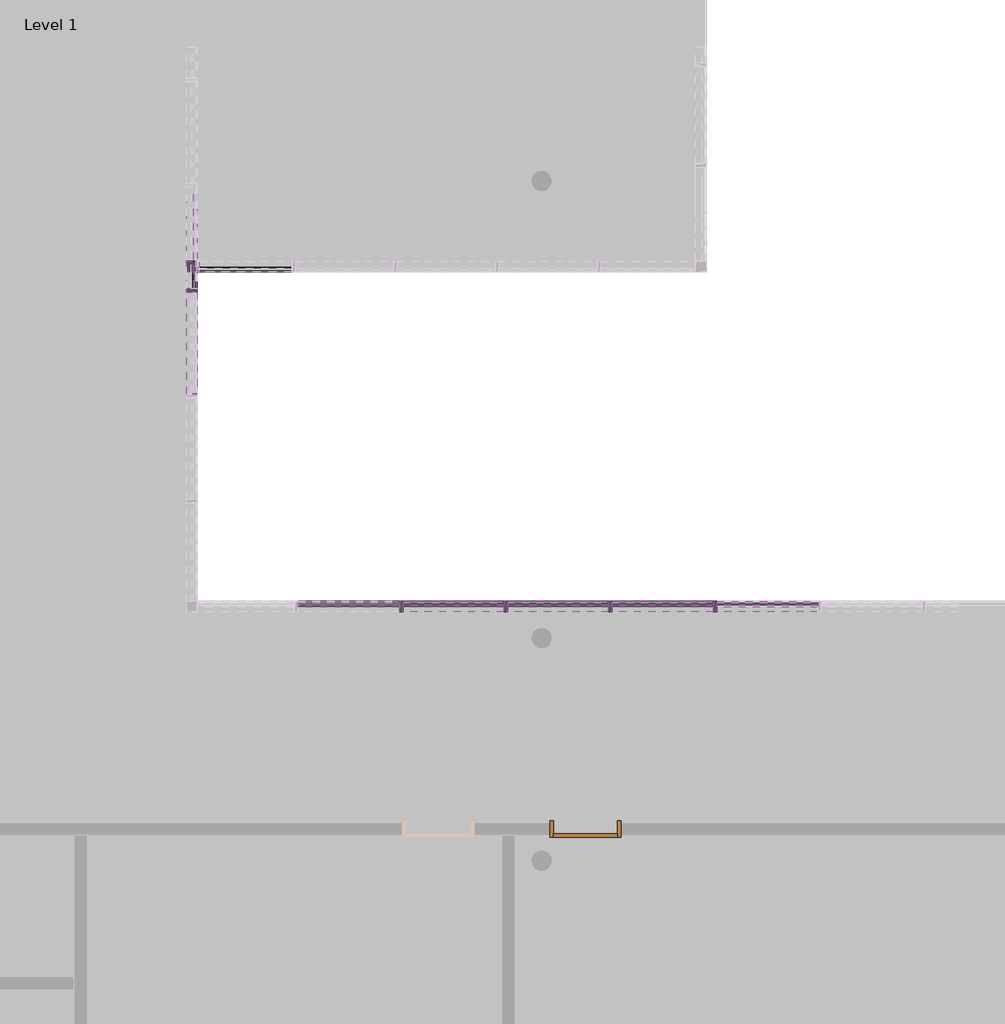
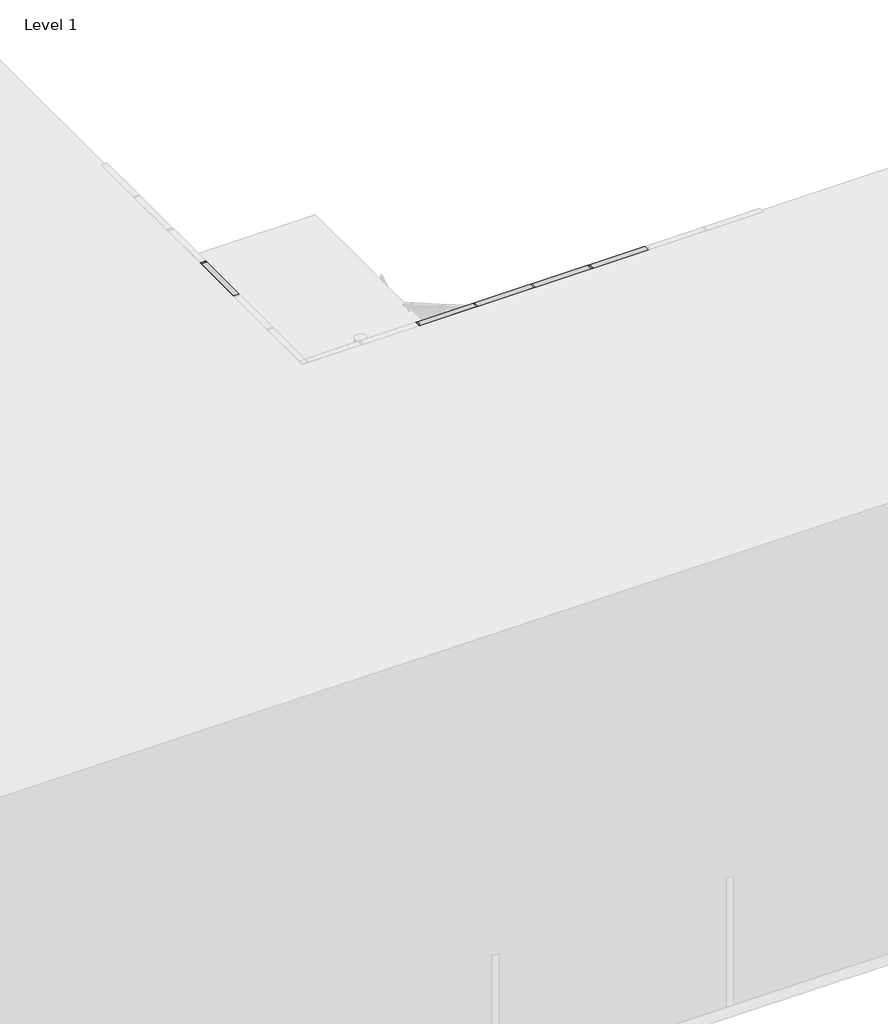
# One storey, part 2 of 18: 86 members, 38 plates, 1 door.
"""IFC4 building model written with IfcOpenShell, lengths in millimetres."""

from ifc_helpers import new_model, si_unit, origin, place, context, project, spatial, transform, mapped, element, save
from components import door_0915mm_x_2134mm_2aa27b83, quad_corner_mullion_quad_mullion_1_37ac55ff, quad_corner_mullion_quad_mullion_1_d5379b67, quad_corner_mullion_quad_mullion_1_470f416b, rectangular_mullion_50mm_x_150mm_5f185edf, rectangular_mullion_50mm_x_150mm_e13fe9f0, rectangular_mullion_50mm_x_150mm_70cae3e1, rectangular_mullion_50mm_x_150mm_5226f6e8, rectangular_mullion_50mm_x_150mm_3bb547da, rectangular_mullion_50mm_x_150mm_bbc1c4ea, rectangular_mullion_50mm_x_150mm_36202a7c, rectangular_mullion_50mm_x_150mm_84717ec5, rectangular_mullion_50mm_x_150mm_a6a3d5e8, rectangular_mullion_50mm_x_150mm_c3a19aad, rectangular_mullion_50mm_x_150mm_56029db9, rectangular_mullion_50mm_x_150mm_d48598d6, rectangular_mullion_50mm_x_150mm_1a36453b, system_panel_glazed_65478968, system_panel_glazed_4c130a31, system_panel_glazed_979b1f5c, system_panel_glazed_5501cdc8, system_panel_glazed_25246cb8, system_panel_solid_368a6b70, system_panel_solid_ece33ae8, system_panel_solid_89a25cb9

model = new_model("IFC4")

# Units and contexts
model_context = context("Model", 3, world=origin())
ifc_project = project(units=[si_unit("LENGTHUNIT", "METRE", prefix="MILLI")], contexts=[model_context])

# Site, building, storey
site = spatial("IfcSite", under=ifc_project)
building = spatial("IfcBuilding", under=site)
storey = spatial("IfcBuildingStorey", under=building, Name="Level 1", Elevation=0.0)

# Door
placement = place(None, origin())
door_0915mm_x_2134mm_shape = door_0915mm_x_2134mm_2aa27b83(model_context)
element("IfcDoor", 1, ObjectType="m-doors-hm-f1-a : 0915mm x 2134mm", at=placement, inside=storey, context=model_context, shape_type="MappedRepresentation", body=[
    mapped(door_0915mm_x_2134mm_shape, transform((13061.1968037, -15479.7006057, 0.0), x_axis=(-1.0, 0.0, 0.0), y_axis=(0.0, -1.0, 0.0), z_axis=(0.0, 0.0, 1.0))),
])

# Members
quad_corner_mullion_quad_mullion_1_shape = quad_corner_mullion_quad_mullion_1_37ac55ff(model_context)
element("IfcMember", 2, ObjectType="Quad Corner Mullion : Quad Mullion 1", at=placement, inside=storey, context=model_context, shape_type="MappedRepresentation", body=[
    mapped(quad_corner_mullion_quad_mullion_1_shape, transform((7447.5010724, -7283.8611817, 0.0), x_axis=(0.0, 1.0, 0.0), y_axis=(1.0, 0.0, 0.0), z_axis=(0.0, 0.0, -1.0))),
])
quad_corner_mullion_quad_mullion_1_2_shape = quad_corner_mullion_quad_mullion_1_d5379b67(model_context)
element("IfcMember", 3, ObjectType="Quad Corner Mullion : Quad Mullion 1", at=placement, inside=storey, context=model_context, shape_type="MappedRepresentation", body=[
    mapped(quad_corner_mullion_quad_mullion_1_2_shape, transform((7447.5010724, -7283.8611817, 2440.0), x_axis=(0.0, 1.0, 0.0), y_axis=(1.0, 0.0, 0.0), z_axis=(0.0, 0.0, -1.0))),
])
element("IfcMember", 4, ObjectType="Quad Corner Mullion : Quad Mullion 1", at=placement, inside=storey, context=model_context, shape_type="MappedRepresentation", body=[
    mapped(quad_corner_mullion_quad_mullion_1_shape, transform((7447.5010724, -7283.8611817, 3800.0), x_axis=(0.0, 1.0, 0.0), y_axis=(1.0, 0.0, 0.0), z_axis=(0.0, 0.0, -1.0))),
])
quad_corner_mullion_quad_mullion_1_3_shape = quad_corner_mullion_quad_mullion_1_470f416b(model_context)
element("IfcMember", 5, ObjectType="Quad Corner Mullion : Quad Mullion 1", at=placement, inside=storey, context=model_context, shape_type="MappedRepresentation", body=[
    mapped(quad_corner_mullion_quad_mullion_1_3_shape, transform((7447.5010724, -7283.8611817, 6240.0), x_axis=(0.0, 1.0, 0.0), y_axis=(1.0, 0.0, 0.0), z_axis=(0.0, 0.0, -1.0))),
])
rectangular_mullion_50mm_x_150mm_shape = rectangular_mullion_50mm_x_150mm_5f185edf(model_context)
element("IfcMember", 6, ObjectType="Rectangular Mullion : 50mm x 150mm", at=placement, inside=storey, context=model_context, shape_type="MappedRepresentation", body=[
    mapped(rectangular_mullion_50mm_x_150mm_shape, transform((14934.8671735, -12132.3615692, 12400.0), x_axis=(0.0, 0.0, 1.0), y_axis=(0.0, 1.0, 0.0), z_axis=(-1.0, 0.0, 0.0))),
])
element("IfcMember", 7, ObjectType="Rectangular Mullion : 50mm x 150mm", at=placement, inside=storey, context=model_context, shape_type="MappedRepresentation", body=[
    mapped(rectangular_mullion_50mm_x_150mm_shape, transform((13442.3939533, -12132.3615692, 12400.0), x_axis=(0.0, 0.0, 1.0), y_axis=(0.0, 1.0, 0.0), z_axis=(-1.0, 0.0, 0.0))),
])
element("IfcMember", 8, ObjectType="Rectangular Mullion : 50mm x 150mm", at=placement, inside=storey, context=model_context, shape_type="MappedRepresentation", body=[
    mapped(rectangular_mullion_50mm_x_150mm_shape, transform((11949.9207332, -12132.3615692, 12400.0), x_axis=(0.0, 0.0, 1.0), y_axis=(0.0, 1.0, 0.0), z_axis=(-1.0, 0.0, 0.0))),
])
element("IfcMember", 9, ObjectType="Rectangular Mullion : 50mm x 150mm", at=placement, inside=storey, context=model_context, shape_type="MappedRepresentation", body=[
    mapped(rectangular_mullion_50mm_x_150mm_shape, transform((10457.447513, -12132.3615692, 12400.0), x_axis=(0.0, 0.0, 1.0), y_axis=(0.0, 1.0, 0.0), z_axis=(-1.0, 0.0, 0.0))),
])
element("IfcMember", 10, ObjectType="Rectangular Mullion : 50mm x 150mm", at=placement, inside=storey, context=model_context, shape_type="MappedRepresentation", body=[
    mapped(rectangular_mullion_50mm_x_150mm_shape, transform((14884.8671735, -12132.3615692, 0.0), x_axis=(0.0, 0.0, -1.0), y_axis=(0.0, 1.0, 0.0), z_axis=(1.0, 0.0, 0.0))),
])
element("IfcMember", 11, ObjectType="Rectangular Mullion : 50mm x 150mm", at=placement, inside=storey, context=model_context, shape_type="MappedRepresentation", body=[
    mapped(rectangular_mullion_50mm_x_150mm_shape, transform((13392.3939533, -12132.3615692, 0.0), x_axis=(0.0, 0.0, -1.0), y_axis=(0.0, 1.0, 0.0), z_axis=(1.0, 0.0, 0.0))),
])
element("IfcMember", 12, ObjectType="Rectangular Mullion : 50mm x 150mm", at=placement, inside=storey, context=model_context, shape_type="MappedRepresentation", body=[
    mapped(rectangular_mullion_50mm_x_150mm_shape, transform((11899.9207332, -12132.3615692, 0.0), x_axis=(0.0, 0.0, -1.0), y_axis=(0.0, 1.0, 0.0), z_axis=(1.0, 0.0, 0.0))),
])
element("IfcMember", 13, ObjectType="Rectangular Mullion : 50mm x 150mm", at=placement, inside=storey, context=model_context, shape_type="MappedRepresentation", body=[
    mapped(rectangular_mullion_50mm_x_150mm_shape, transform((10407.447513, -12132.3615692, 0.0), x_axis=(0.0, 0.0, -1.0), y_axis=(0.0, 1.0, 0.0), z_axis=(1.0, 0.0, 0.0))),
])
rectangular_mullion_50mm_x_150mm_2_shape = rectangular_mullion_50mm_x_150mm_e13fe9f0(model_context)
element("IfcMember", 14, ObjectType="Rectangular Mullion : 50mm x 150mm", at=placement, inside=storey, context=model_context, shape_type="MappedRepresentation", body=[
    mapped(rectangular_mullion_50mm_x_150mm_2_shape, transform((14934.8671735, -12132.3615692, 3800.0), x_axis=(0.0, 0.0, 1.0), y_axis=(0.0, 1.0, 0.0), z_axis=(-1.0, 0.0, 0.0))),
])
element("IfcMember", 15, ObjectType="Rectangular Mullion : 50mm x 150mm", at=placement, inside=storey, context=model_context, shape_type="MappedRepresentation", body=[
    mapped(rectangular_mullion_50mm_x_150mm_2_shape, transform((13442.3939533, -12132.3615692, 3800.0), x_axis=(0.0, 0.0, 1.0), y_axis=(0.0, 1.0, 0.0), z_axis=(-1.0, 0.0, 0.0))),
])
element("IfcMember", 16, ObjectType="Rectangular Mullion : 50mm x 150mm", at=placement, inside=storey, context=model_context, shape_type="MappedRepresentation", body=[
    mapped(rectangular_mullion_50mm_x_150mm_2_shape, transform((11949.9207332, -12132.3615692, 3800.0), x_axis=(0.0, 0.0, 1.0), y_axis=(0.0, 1.0, 0.0), z_axis=(-1.0, 0.0, 0.0))),
])
element("IfcMember", 17, ObjectType="Rectangular Mullion : 50mm x 150mm", at=placement, inside=storey, context=model_context, shape_type="MappedRepresentation", body=[
    mapped(rectangular_mullion_50mm_x_150mm_2_shape, transform((10457.447513, -12132.3615692, 3800.0), x_axis=(0.0, 0.0, 1.0), y_axis=(0.0, 1.0, 0.0), z_axis=(-1.0, 0.0, 0.0))),
])
element("IfcMember", 18, ObjectType="Rectangular Mullion : 50mm x 150mm", at=placement, inside=storey, context=model_context, shape_type="MappedRepresentation", body=[
    mapped(rectangular_mullion_50mm_x_150mm_2_shape, transform((14934.8671735, -12132.3615692, 7600.0), x_axis=(0.0, 0.0, 1.0), y_axis=(0.0, 1.0, 0.0), z_axis=(-1.0, 0.0, 0.0))),
])
element("IfcMember", 19, ObjectType="Rectangular Mullion : 50mm x 150mm", at=placement, inside=storey, context=model_context, shape_type="MappedRepresentation", body=[
    mapped(rectangular_mullion_50mm_x_150mm_2_shape, transform((13442.3939533, -12132.3615692, 7600.0), x_axis=(0.0, 0.0, 1.0), y_axis=(0.0, 1.0, 0.0), z_axis=(-1.0, 0.0, 0.0))),
])
element("IfcMember", 20, ObjectType="Rectangular Mullion : 50mm x 150mm", at=placement, inside=storey, context=model_context, shape_type="MappedRepresentation", body=[
    mapped(rectangular_mullion_50mm_x_150mm_2_shape, transform((11949.9207332, -12132.3615692, 7600.0), x_axis=(0.0, 0.0, 1.0), y_axis=(0.0, 1.0, 0.0), z_axis=(-1.0, 0.0, 0.0))),
])
element("IfcMember", 21, ObjectType="Rectangular Mullion : 50mm x 150mm", at=placement, inside=storey, context=model_context, shape_type="MappedRepresentation", body=[
    mapped(rectangular_mullion_50mm_x_150mm_2_shape, transform((10457.447513, -12132.3615692, 7600.0), x_axis=(0.0, 0.0, 1.0), y_axis=(0.0, 1.0, 0.0), z_axis=(-1.0, 0.0, 0.0))),
])
element("IfcMember", 22, ObjectType="Rectangular Mullion : 50mm x 150mm", at=placement, inside=storey, context=model_context, shape_type="MappedRepresentation", body=[
    mapped(rectangular_mullion_50mm_x_150mm_2_shape, transform((14934.8671735, -12132.3615692, 11400.0), x_axis=(0.0, 0.0, 1.0), y_axis=(0.0, 1.0, 0.0), z_axis=(-1.0, 0.0, 0.0))),
])
element("IfcMember", 23, ObjectType="Rectangular Mullion : 50mm x 150mm", at=placement, inside=storey, context=model_context, shape_type="MappedRepresentation", body=[
    mapped(rectangular_mullion_50mm_x_150mm_2_shape, transform((13442.3939533, -12132.3615692, 11400.0), x_axis=(0.0, 0.0, 1.0), y_axis=(0.0, 1.0, 0.0), z_axis=(-1.0, 0.0, 0.0))),
])
element("IfcMember", 24, ObjectType="Rectangular Mullion : 50mm x 150mm", at=placement, inside=storey, context=model_context, shape_type="MappedRepresentation", body=[
    mapped(rectangular_mullion_50mm_x_150mm_2_shape, transform((11949.9207332, -12132.3615692, 11400.0), x_axis=(0.0, 0.0, 1.0), y_axis=(0.0, 1.0, 0.0), z_axis=(-1.0, 0.0, 0.0))),
])
element("IfcMember", 25, ObjectType="Rectangular Mullion : 50mm x 150mm", at=placement, inside=storey, context=model_context, shape_type="MappedRepresentation", body=[
    mapped(rectangular_mullion_50mm_x_150mm_2_shape, transform((10457.447513, -12132.3615692, 11400.0), x_axis=(0.0, 0.0, 1.0), y_axis=(0.0, 1.0, 0.0), z_axis=(-1.0, 0.0, 0.0))),
])
element("IfcMember", 26, ObjectType="Rectangular Mullion : 50mm x 150mm", at=placement, inside=storey, context=model_context, shape_type="MappedRepresentation", body=[
    mapped(rectangular_mullion_50mm_x_150mm_2_shape, transform((14934.8671735, -12132.3615692, 2440.0), x_axis=(0.0, 0.0, 1.0), y_axis=(0.0, 1.0, 0.0), z_axis=(-1.0, 0.0, 0.0))),
])
element("IfcMember", 27, ObjectType="Rectangular Mullion : 50mm x 150mm", at=placement, inside=storey, context=model_context, shape_type="MappedRepresentation", body=[
    mapped(rectangular_mullion_50mm_x_150mm_2_shape, transform((13442.3939533, -12132.3615692, 2440.0), x_axis=(0.0, 0.0, 1.0), y_axis=(0.0, 1.0, 0.0), z_axis=(-1.0, 0.0, 0.0))),
])
element("IfcMember", 28, ObjectType="Rectangular Mullion : 50mm x 150mm", at=placement, inside=storey, context=model_context, shape_type="MappedRepresentation", body=[
    mapped(rectangular_mullion_50mm_x_150mm_2_shape, transform((11949.9207332, -12132.3615692, 2440.0), x_axis=(0.0, 0.0, 1.0), y_axis=(0.0, 1.0, 0.0), z_axis=(-1.0, 0.0, 0.0))),
])
element("IfcMember", 29, ObjectType="Rectangular Mullion : 50mm x 150mm", at=placement, inside=storey, context=model_context, shape_type="MappedRepresentation", body=[
    mapped(rectangular_mullion_50mm_x_150mm_2_shape, transform((10457.447513, -12132.3615692, 2440.0), x_axis=(0.0, 0.0, 1.0), y_axis=(0.0, 1.0, 0.0), z_axis=(-1.0, 0.0, 0.0))),
])
element("IfcMember", 30, ObjectType="Rectangular Mullion : 50mm x 150mm", at=placement, inside=storey, context=model_context, shape_type="MappedRepresentation", body=[
    mapped(rectangular_mullion_50mm_x_150mm_2_shape, transform((14934.8671735, -12132.3615692, 6240.0), x_axis=(0.0, 0.0, 1.0), y_axis=(0.0, 1.0, 0.0), z_axis=(-1.0, 0.0, 0.0))),
])
element("IfcMember", 31, ObjectType="Rectangular Mullion : 50mm x 150mm", at=placement, inside=storey, context=model_context, shape_type="MappedRepresentation", body=[
    mapped(rectangular_mullion_50mm_x_150mm_2_shape, transform((13442.3939533, -12132.3615692, 6240.0), x_axis=(0.0, 0.0, 1.0), y_axis=(0.0, 1.0, 0.0), z_axis=(-1.0, 0.0, 0.0))),
])
element("IfcMember", 32, ObjectType="Rectangular Mullion : 50mm x 150mm", at=placement, inside=storey, context=model_context, shape_type="MappedRepresentation", body=[
    mapped(rectangular_mullion_50mm_x_150mm_2_shape, transform((11949.9207332, -12132.3615692, 6240.0), x_axis=(0.0, 0.0, 1.0), y_axis=(0.0, 1.0, 0.0), z_axis=(-1.0, 0.0, 0.0))),
])
element("IfcMember", 33, ObjectType="Rectangular Mullion : 50mm x 150mm", at=placement, inside=storey, context=model_context, shape_type="MappedRepresentation", body=[
    mapped(rectangular_mullion_50mm_x_150mm_2_shape, transform((10457.447513, -12132.3615692, 6240.0), x_axis=(0.0, 0.0, 1.0), y_axis=(0.0, 1.0, 0.0), z_axis=(-1.0, 0.0, 0.0))),
])
element("IfcMember", 34, ObjectType="Rectangular Mullion : 50mm x 150mm", at=placement, inside=storey, context=model_context, shape_type="MappedRepresentation", body=[
    mapped(rectangular_mullion_50mm_x_150mm_2_shape, transform((14934.8671735, -12132.3615692, 10040.0), x_axis=(0.0, 0.0, 1.0), y_axis=(0.0, 1.0, 0.0), z_axis=(-1.0, 0.0, 0.0))),
])
element("IfcMember", 35, ObjectType="Rectangular Mullion : 50mm x 150mm", at=placement, inside=storey, context=model_context, shape_type="MappedRepresentation", body=[
    mapped(rectangular_mullion_50mm_x_150mm_2_shape, transform((13442.3939533, -12132.3615692, 10040.0), x_axis=(0.0, 0.0, 1.0), y_axis=(0.0, 1.0, 0.0), z_axis=(-1.0, 0.0, 0.0))),
])
element("IfcMember", 36, ObjectType="Rectangular Mullion : 50mm x 150mm", at=placement, inside=storey, context=model_context, shape_type="MappedRepresentation", body=[
    mapped(rectangular_mullion_50mm_x_150mm_2_shape, transform((11949.9207332, -12132.3615692, 10040.0), x_axis=(0.0, 0.0, 1.0), y_axis=(0.0, 1.0, 0.0), z_axis=(-1.0, 0.0, 0.0))),
])
element("IfcMember", 37, ObjectType="Rectangular Mullion : 50mm x 150mm", at=placement, inside=storey, context=model_context, shape_type="MappedRepresentation", body=[
    mapped(rectangular_mullion_50mm_x_150mm_2_shape, transform((10457.447513, -12132.3615692, 10040.0), x_axis=(0.0, 0.0, 1.0), y_axis=(0.0, 1.0, 0.0), z_axis=(-1.0, 0.0, 0.0))),
])
rectangular_mullion_50mm_x_150mm_3_shape = rectangular_mullion_50mm_x_150mm_70cae3e1(model_context)
element("IfcMember", 38, ObjectType="Rectangular Mullion : 50mm x 150mm", at=placement, inside=storey, context=model_context, shape_type="MappedRepresentation", body=[
    mapped(rectangular_mullion_50mm_x_150mm_3_shape, transform((7447.5010724, -7650.6186012, 12400.0), x_axis=(0.0, 0.0, 1.0), y_axis=(1.0, 0.0, 0.0), z_axis=(0.0, 1.0, 0.0))),
])
rectangular_mullion_50mm_x_150mm_4_shape = rectangular_mullion_50mm_x_150mm_5226f6e8(model_context)
element("IfcMember", 39, ObjectType="Rectangular Mullion : 50mm x 150mm", at=placement, inside=storey, context=model_context, shape_type="MappedRepresentation", body=[
    mapped(rectangular_mullion_50mm_x_150mm_4_shape, transform((7447.5010724, -7650.6186012, 3800.0), x_axis=(0.0, 0.0, 1.0), y_axis=(1.0, 0.0, 0.0), z_axis=(0.0, 1.0, 0.0))),
])
element("IfcMember", 40, ObjectType="Rectangular Mullion : 50mm x 150mm", at=placement, inside=storey, context=model_context, shape_type="MappedRepresentation", body=[
    mapped(rectangular_mullion_50mm_x_150mm_4_shape, transform((7447.5010724, -7650.6186012, 7600.0), x_axis=(0.0, 0.0, 1.0), y_axis=(1.0, 0.0, 0.0), z_axis=(0.0, 1.0, 0.0))),
])
element("IfcMember", 41, ObjectType="Rectangular Mullion : 50mm x 150mm", at=placement, inside=storey, context=model_context, shape_type="MappedRepresentation", body=[
    mapped(rectangular_mullion_50mm_x_150mm_4_shape, transform((7447.5010724, -7650.6186012, 11400.0), x_axis=(0.0, 0.0, 1.0), y_axis=(1.0, 0.0, 0.0), z_axis=(0.0, 1.0, 0.0))),
])
element("IfcMember", 42, ObjectType="Rectangular Mullion : 50mm x 150mm", at=placement, inside=storey, context=model_context, shape_type="MappedRepresentation", body=[
    mapped(rectangular_mullion_50mm_x_150mm_4_shape, transform((7447.5010724, -7650.6186012, 10040.0), x_axis=(0.0, 0.0, 1.0), y_axis=(1.0, 0.0, 0.0), z_axis=(0.0, 1.0, 0.0))),
])
element("IfcMember", 43, ObjectType="Rectangular Mullion : 50mm x 150mm", at=placement, inside=storey, context=model_context, shape_type="MappedRepresentation", body=[
    mapped(rectangular_mullion_50mm_x_150mm_4_shape, transform((7447.5010724, -7650.6186012, 6240.0), x_axis=(0.0, 0.0, 1.0), y_axis=(1.0, 0.0, 0.0), z_axis=(0.0, 1.0, 0.0))),
])
element("IfcMember", 44, ObjectType="Rectangular Mullion : 50mm x 150mm", at=placement, inside=storey, context=model_context, shape_type="MappedRepresentation", body=[
    mapped(rectangular_mullion_50mm_x_150mm_4_shape, transform((7447.5010724, -7650.6186012, 2440.0), x_axis=(0.0, 0.0, 1.0), y_axis=(1.0, 0.0, 0.0), z_axis=(0.0, 1.0, 0.0))),
])
rectangular_mullion_50mm_x_150mm_5_shape = rectangular_mullion_50mm_x_150mm_3bb547da(model_context)
element("IfcMember", 45, ObjectType="Rectangular Mullion : 50mm x 150mm", at=placement, inside=storey, context=model_context, shape_type="MappedRepresentation", body=[
    mapped(rectangular_mullion_50mm_x_150mm_5_shape, transform((7522.5010724, -7283.8611817, 0.0), x_axis=(0.0, 0.0, -1.0), y_axis=(0.0, -1.0, 0.0), z_axis=(-1.0, 0.0, 0.0))),
])
rectangular_mullion_50mm_x_150mm_6_shape = rectangular_mullion_50mm_x_150mm_bbc1c4ea(model_context)
element("IfcMember", 46, ObjectType="Rectangular Mullion : 50mm x 150mm", at=placement, inside=storey, context=model_context, shape_type="MappedRepresentation", body=[
    mapped(rectangular_mullion_50mm_x_150mm_6_shape, transform((14909.8671735, -12132.3615692, 11400.0), x_axis=(-1.0, 0.0, 0.0), y_axis=(0.0, 1.0, 0.0), z_axis=(0.0, 0.0, -1.0))),
])
element("IfcMember", 47, ObjectType="Rectangular Mullion : 50mm x 150mm", at=placement, inside=storey, context=model_context, shape_type="MappedRepresentation", body=[
    mapped(rectangular_mullion_50mm_x_150mm_6_shape, transform((13417.3939533, -12132.3615692, 11400.0), x_axis=(-1.0, 0.0, 0.0), y_axis=(0.0, 1.0, 0.0), z_axis=(0.0, 0.0, -1.0))),
])
element("IfcMember", 48, ObjectType="Rectangular Mullion : 50mm x 150mm", at=placement, inside=storey, context=model_context, shape_type="MappedRepresentation", body=[
    mapped(rectangular_mullion_50mm_x_150mm_6_shape, transform((11924.9207332, -12132.3615692, 11400.0), x_axis=(-1.0, 0.0, 0.0), y_axis=(0.0, 1.0, 0.0), z_axis=(0.0, 0.0, -1.0))),
])
element("IfcMember", 49, ObjectType="Rectangular Mullion : 50mm x 150mm", at=placement, inside=storey, context=model_context, shape_type="MappedRepresentation", body=[
    mapped(rectangular_mullion_50mm_x_150mm_6_shape, transform((10432.447513, -12132.3615692, 11400.0), x_axis=(-1.0, 0.0, 0.0), y_axis=(0.0, 1.0, 0.0), z_axis=(0.0, 0.0, -1.0))),
])
element("IfcMember", 50, ObjectType="Rectangular Mullion : 50mm x 150mm", at=placement, inside=storey, context=model_context, shape_type="MappedRepresentation", body=[
    mapped(rectangular_mullion_50mm_x_150mm_6_shape, transform((7447.5010724, -7625.6186012, 11400.0), x_axis=(0.0, 1.0, 0.0), y_axis=(1.0, 0.0, 0.0), z_axis=(0.0, 0.0, -1.0))),
])
rectangular_mullion_50mm_x_150mm_7_shape = rectangular_mullion_50mm_x_150mm_36202a7c(model_context)
element("IfcMember", 51, ObjectType="Rectangular Mullion : 50mm x 150mm", at=placement, inside=storey, context=model_context, shape_type="MappedRepresentation", body=[
    mapped(rectangular_mullion_50mm_x_150mm_7_shape, transform((14909.8671735, -12132.3615692, 0.0), x_axis=(-1.0, 0.0, 0.0), y_axis=(0.0, 1.0, 0.0), z_axis=(0.0, 0.0, -1.0))),
])
element("IfcMember", 52, ObjectType="Rectangular Mullion : 50mm x 150mm", at=placement, inside=storey, context=model_context, shape_type="MappedRepresentation", body=[
    mapped(rectangular_mullion_50mm_x_150mm_7_shape, transform((13417.3939533, -12132.3615692, 0.0), x_axis=(-1.0, 0.0, 0.0), y_axis=(0.0, 1.0, 0.0), z_axis=(0.0, 0.0, -1.0))),
])
element("IfcMember", 53, ObjectType="Rectangular Mullion : 50mm x 150mm", at=placement, inside=storey, context=model_context, shape_type="MappedRepresentation", body=[
    mapped(rectangular_mullion_50mm_x_150mm_7_shape, transform((11924.9207332, -12132.3615692, 0.0), x_axis=(-1.0, 0.0, 0.0), y_axis=(0.0, 1.0, 0.0), z_axis=(0.0, 0.0, -1.0))),
])
element("IfcMember", 54, ObjectType="Rectangular Mullion : 50mm x 150mm", at=placement, inside=storey, context=model_context, shape_type="MappedRepresentation", body=[
    mapped(rectangular_mullion_50mm_x_150mm_7_shape, transform((10432.447513, -12132.3615692, 0.0), x_axis=(-1.0, 0.0, 0.0), y_axis=(0.0, 1.0, 0.0), z_axis=(0.0, 0.0, -1.0))),
])
element("IfcMember", 55, ObjectType="Rectangular Mullion : 50mm x 150mm", at=placement, inside=storey, context=model_context, shape_type="MappedRepresentation", body=[
    mapped(rectangular_mullion_50mm_x_150mm_7_shape, transform((7447.5010724, -7625.6186012, 0.0), x_axis=(0.0, 1.0, 0.0), y_axis=(1.0, 0.0, 0.0), z_axis=(0.0, 0.0, -1.0))),
])
rectangular_mullion_50mm_x_150mm_8_shape = rectangular_mullion_50mm_x_150mm_84717ec5(model_context)
element("IfcMember", 56, ObjectType="Rectangular Mullion : 50mm x 150mm", at=placement, inside=storey, context=model_context, shape_type="MappedRepresentation", body=[
    mapped(rectangular_mullion_50mm_x_150mm_8_shape, transform((14909.8671735, -12132.3615692, 2440.0), x_axis=(-1.0, 0.0, 0.0), y_axis=(0.0, 1.0, 0.0), z_axis=(0.0, 0.0, -1.0))),
])
element("IfcMember", 57, ObjectType="Rectangular Mullion : 50mm x 150mm", at=placement, inside=storey, context=model_context, shape_type="MappedRepresentation", body=[
    mapped(rectangular_mullion_50mm_x_150mm_8_shape, transform((13417.3939533, -12132.3615692, 2440.0), x_axis=(-1.0, 0.0, 0.0), y_axis=(0.0, 1.0, 0.0), z_axis=(0.0, 0.0, -1.0))),
])
element("IfcMember", 58, ObjectType="Rectangular Mullion : 50mm x 150mm", at=placement, inside=storey, context=model_context, shape_type="MappedRepresentation", body=[
    mapped(rectangular_mullion_50mm_x_150mm_8_shape, transform((11924.9207332, -12132.3615692, 2440.0), x_axis=(-1.0, 0.0, 0.0), y_axis=(0.0, 1.0, 0.0), z_axis=(0.0, 0.0, -1.0))),
])
element("IfcMember", 59, ObjectType="Rectangular Mullion : 50mm x 150mm", at=placement, inside=storey, context=model_context, shape_type="MappedRepresentation", body=[
    mapped(rectangular_mullion_50mm_x_150mm_8_shape, transform((10432.447513, -12132.3615692, 2440.0), x_axis=(-1.0, 0.0, 0.0), y_axis=(0.0, 1.0, 0.0), z_axis=(0.0, 0.0, -1.0))),
])
element("IfcMember", 60, ObjectType="Rectangular Mullion : 50mm x 150mm", at=placement, inside=storey, context=model_context, shape_type="MappedRepresentation", body=[
    mapped(rectangular_mullion_50mm_x_150mm_8_shape, transform((14909.8671735, -12132.3615692, 6240.0), x_axis=(-1.0, 0.0, 0.0), y_axis=(0.0, 1.0, 0.0), z_axis=(0.0, 0.0, -1.0))),
])
element("IfcMember", 61, ObjectType="Rectangular Mullion : 50mm x 150mm", at=placement, inside=storey, context=model_context, shape_type="MappedRepresentation", body=[
    mapped(rectangular_mullion_50mm_x_150mm_8_shape, transform((13417.3939533, -12132.3615692, 6240.0), x_axis=(-1.0, 0.0, 0.0), y_axis=(0.0, 1.0, 0.0), z_axis=(0.0, 0.0, -1.0))),
])
element("IfcMember", 62, ObjectType="Rectangular Mullion : 50mm x 150mm", at=placement, inside=storey, context=model_context, shape_type="MappedRepresentation", body=[
    mapped(rectangular_mullion_50mm_x_150mm_8_shape, transform((11924.9207332, -12132.3615692, 6240.0), x_axis=(-1.0, 0.0, 0.0), y_axis=(0.0, 1.0, 0.0), z_axis=(0.0, 0.0, -1.0))),
])
element("IfcMember", 63, ObjectType="Rectangular Mullion : 50mm x 150mm", at=placement, inside=storey, context=model_context, shape_type="MappedRepresentation", body=[
    mapped(rectangular_mullion_50mm_x_150mm_8_shape, transform((10432.447513, -12132.3615692, 6240.0), x_axis=(-1.0, 0.0, 0.0), y_axis=(0.0, 1.0, 0.0), z_axis=(0.0, 0.0, -1.0))),
])
element("IfcMember", 64, ObjectType="Rectangular Mullion : 50mm x 150mm", at=placement, inside=storey, context=model_context, shape_type="MappedRepresentation", body=[
    mapped(rectangular_mullion_50mm_x_150mm_8_shape, transform((14909.8671735, -12132.3615692, 10040.0), x_axis=(-1.0, 0.0, 0.0), y_axis=(0.0, 1.0, 0.0), z_axis=(0.0, 0.0, -1.0))),
])
element("IfcMember", 65, ObjectType="Rectangular Mullion : 50mm x 150mm", at=placement, inside=storey, context=model_context, shape_type="MappedRepresentation", body=[
    mapped(rectangular_mullion_50mm_x_150mm_8_shape, transform((13417.3939533, -12132.3615692, 10040.0), x_axis=(-1.0, 0.0, 0.0), y_axis=(0.0, 1.0, 0.0), z_axis=(0.0, 0.0, -1.0))),
])
element("IfcMember", 66, ObjectType="Rectangular Mullion : 50mm x 150mm", at=placement, inside=storey, context=model_context, shape_type="MappedRepresentation", body=[
    mapped(rectangular_mullion_50mm_x_150mm_8_shape, transform((11924.9207332, -12132.3615692, 10040.0), x_axis=(-1.0, 0.0, 0.0), y_axis=(0.0, 1.0, 0.0), z_axis=(0.0, 0.0, -1.0))),
])
element("IfcMember", 67, ObjectType="Rectangular Mullion : 50mm x 150mm", at=placement, inside=storey, context=model_context, shape_type="MappedRepresentation", body=[
    mapped(rectangular_mullion_50mm_x_150mm_8_shape, transform((10432.447513, -12132.3615692, 10040.0), x_axis=(-1.0, 0.0, 0.0), y_axis=(0.0, 1.0, 0.0), z_axis=(0.0, 0.0, -1.0))),
])
element("IfcMember", 68, ObjectType="Rectangular Mullion : 50mm x 150mm", at=placement, inside=storey, context=model_context, shape_type="MappedRepresentation", body=[
    mapped(rectangular_mullion_50mm_x_150mm_8_shape, transform((7447.5010724, -7625.6186012, 10040.0), x_axis=(0.0, 1.0, 0.0), y_axis=(1.0, 0.0, 0.0), z_axis=(0.0, 0.0, -1.0))),
])
element("IfcMember", 69, ObjectType="Rectangular Mullion : 50mm x 150mm", at=placement, inside=storey, context=model_context, shape_type="MappedRepresentation", body=[
    mapped(rectangular_mullion_50mm_x_150mm_8_shape, transform((7447.5010724, -7625.6186012, 6240.0), x_axis=(0.0, 1.0, 0.0), y_axis=(1.0, 0.0, 0.0), z_axis=(0.0, 0.0, -1.0))),
])
element("IfcMember", 70, ObjectType="Rectangular Mullion : 50mm x 150mm", at=placement, inside=storey, context=model_context, shape_type="MappedRepresentation", body=[
    mapped(rectangular_mullion_50mm_x_150mm_8_shape, transform((7447.5010724, -7625.6186012, 2440.0), x_axis=(0.0, 1.0, 0.0), y_axis=(1.0, 0.0, 0.0), z_axis=(0.0, 0.0, -1.0))),
])
element("IfcMember", 71, ObjectType="Rectangular Mullion : 50mm x 150mm", at=placement, inside=storey, context=model_context, shape_type="MappedRepresentation", body=[
    mapped(rectangular_mullion_50mm_x_150mm_7_shape, transform((14909.8671735, -12132.3615692, 3800.0), x_axis=(-1.0, 0.0, 0.0), y_axis=(0.0, 1.0, 0.0), z_axis=(0.0, 0.0, -1.0))),
])
element("IfcMember", 72, ObjectType="Rectangular Mullion : 50mm x 150mm", at=placement, inside=storey, context=model_context, shape_type="MappedRepresentation", body=[
    mapped(rectangular_mullion_50mm_x_150mm_7_shape, transform((13417.3939533, -12132.3615692, 3800.0), x_axis=(-1.0, 0.0, 0.0), y_axis=(0.0, 1.0, 0.0), z_axis=(0.0, 0.0, -1.0))),
])
element("IfcMember", 73, ObjectType="Rectangular Mullion : 50mm x 150mm", at=placement, inside=storey, context=model_context, shape_type="MappedRepresentation", body=[
    mapped(rectangular_mullion_50mm_x_150mm_7_shape, transform((11924.9207332, -12132.3615692, 3800.0), x_axis=(-1.0, 0.0, 0.0), y_axis=(0.0, 1.0, 0.0), z_axis=(0.0, 0.0, -1.0))),
])
element("IfcMember", 74, ObjectType="Rectangular Mullion : 50mm x 150mm", at=placement, inside=storey, context=model_context, shape_type="MappedRepresentation", body=[
    mapped(rectangular_mullion_50mm_x_150mm_7_shape, transform((10432.447513, -12132.3615692, 3800.0), x_axis=(-1.0, 0.0, 0.0), y_axis=(0.0, 1.0, 0.0), z_axis=(0.0, 0.0, -1.0))),
])
element("IfcMember", 75, ObjectType="Rectangular Mullion : 50mm x 150mm", at=placement, inside=storey, context=model_context, shape_type="MappedRepresentation", body=[
    mapped(rectangular_mullion_50mm_x_150mm_7_shape, transform((14909.8671735, -12132.3615692, 7600.0), x_axis=(-1.0, 0.0, 0.0), y_axis=(0.0, 1.0, 0.0), z_axis=(0.0, 0.0, -1.0))),
])
element("IfcMember", 76, ObjectType="Rectangular Mullion : 50mm x 150mm", at=placement, inside=storey, context=model_context, shape_type="MappedRepresentation", body=[
    mapped(rectangular_mullion_50mm_x_150mm_7_shape, transform((13417.3939533, -12132.3615692, 7600.0), x_axis=(-1.0, 0.0, 0.0), y_axis=(0.0, 1.0, 0.0), z_axis=(0.0, 0.0, -1.0))),
])
element("IfcMember", 77, ObjectType="Rectangular Mullion : 50mm x 150mm", at=placement, inside=storey, context=model_context, shape_type="MappedRepresentation", body=[
    mapped(rectangular_mullion_50mm_x_150mm_7_shape, transform((11924.9207332, -12132.3615692, 7600.0), x_axis=(-1.0, 0.0, 0.0), y_axis=(0.0, 1.0, 0.0), z_axis=(0.0, 0.0, -1.0))),
])
element("IfcMember", 78, ObjectType="Rectangular Mullion : 50mm x 150mm", at=placement, inside=storey, context=model_context, shape_type="MappedRepresentation", body=[
    mapped(rectangular_mullion_50mm_x_150mm_7_shape, transform((10432.447513, -12132.3615692, 7600.0), x_axis=(-1.0, 0.0, 0.0), y_axis=(0.0, 1.0, 0.0), z_axis=(0.0, 0.0, -1.0))),
])
element("IfcMember", 79, ObjectType="Rectangular Mullion : 50mm x 150mm", at=placement, inside=storey, context=model_context, shape_type="MappedRepresentation", body=[
    mapped(rectangular_mullion_50mm_x_150mm_7_shape, transform((7447.5010724, -7625.6186012, 3800.0), x_axis=(0.0, 1.0, 0.0), y_axis=(1.0, 0.0, 0.0), z_axis=(0.0, 0.0, -1.0))),
])
element("IfcMember", 80, ObjectType="Rectangular Mullion : 50mm x 150mm", at=placement, inside=storey, context=model_context, shape_type="MappedRepresentation", body=[
    mapped(rectangular_mullion_50mm_x_150mm_7_shape, transform((7447.5010724, -7625.6186012, 7600.0), x_axis=(0.0, 1.0, 0.0), y_axis=(1.0, 0.0, 0.0), z_axis=(0.0, 0.0, -1.0))),
])
rectangular_mullion_50mm_x_150mm_9_shape = rectangular_mullion_50mm_x_150mm_a6a3d5e8(model_context)
element("IfcMember", 81, ObjectType="Rectangular Mullion : 50mm x 150mm", at=placement, inside=storey, context=model_context, shape_type="MappedRepresentation", body=[
    mapped(rectangular_mullion_50mm_x_150mm_9_shape, transform((7447.5010724, -7600.6186012, 0.0), x_axis=(0.0, 0.0, -1.0), y_axis=(1.0, 0.0, 0.0), z_axis=(0.0, -1.0, 0.0))),
])
rectangular_mullion_50mm_x_150mm_10_shape = rectangular_mullion_50mm_x_150mm_c3a19aad(model_context)
element("IfcMember", 82, ObjectType="Rectangular Mullion : 50mm x 150mm", at=placement, inside=storey, context=model_context, shape_type="MappedRepresentation", body=[
    mapped(rectangular_mullion_50mm_x_150mm_10_shape, transform((7447.5010724, -7358.8611817, 3800.0), x_axis=(0.0, 0.0, 1.0), y_axis=(1.0, 0.0, 0.0), z_axis=(0.0, 1.0, 0.0))),
])
element("IfcMember", 83, ObjectType="Rectangular Mullion : 50mm x 150mm", at=placement, inside=storey, context=model_context, shape_type="MappedRepresentation", body=[
    mapped(rectangular_mullion_50mm_x_150mm_10_shape, transform((7447.5010724, -7358.8611817, 6240.0), x_axis=(0.0, 0.0, 1.0), y_axis=(1.0, 0.0, 0.0), z_axis=(0.0, 1.0, 0.0))),
])
element("IfcMember", 84, ObjectType="Rectangular Mullion : 50mm x 150mm", at=placement, inside=storey, context=model_context, shape_type="MappedRepresentation", body=[
    mapped(rectangular_mullion_50mm_x_150mm_10_shape, transform((7447.5010724, -7358.8611817, 2440.0), x_axis=(0.0, 0.0, 1.0), y_axis=(1.0, 0.0, 0.0), z_axis=(0.0, 1.0, 0.0))),
])
rectangular_mullion_50mm_x_150mm_11_shape = rectangular_mullion_50mm_x_150mm_56029db9(model_context)
element("IfcMember", 85, ObjectType="Rectangular Mullion : 50mm x 150mm", at=placement, inside=storey, context=model_context, shape_type="MappedRepresentation", body=[
    mapped(rectangular_mullion_50mm_x_150mm_11_shape, transform((7447.5010724, -7283.8611817, 6600.0), x_axis=(0.0, 0.0, -1.0), y_axis=(1.0, 0.0, 0.0), z_axis=(0.0, -1.0, 0.0))),
])
rectangular_mullion_50mm_x_150mm_12_shape = rectangular_mullion_50mm_x_150mm_d48598d6(model_context)
element("IfcMember", 86, ObjectType="Rectangular Mullion : 50mm x 150mm", at=placement, inside=storey, context=model_context, shape_type="MappedRepresentation", body=[
    mapped(rectangular_mullion_50mm_x_150mm_12_shape, transform((7497.0010724, -7283.8611817, 8424.5150656), x_axis=(-1.0, 0.0, 0.0), y_axis=(0.0, -1.0, 0.0), z_axis=(0.0, 0.0, 1.0))),
])
rectangular_mullion_50mm_x_150mm_13_shape = rectangular_mullion_50mm_x_150mm_1a36453b(model_context)
element("IfcMember", 87, ObjectType="Rectangular Mullion : 50mm x 150mm", at=placement, inside=storey, context=model_context, shape_type="MappedRepresentation", body=[
    mapped(rectangular_mullion_50mm_x_150mm_13_shape, transform((7497.0010724, -7283.8611817, 7600.0), x_axis=(-1.0, 0.0, 0.0), y_axis=(0.0, -1.0, 0.0), z_axis=(0.0, 0.0, 1.0))),
])

# Plates
system_panel_glazed_shape = system_panel_glazed_65478968(model_context)
element("IfcPlate", 88, ObjectType="System Panel : Glazed", at=placement, inside=storey, context=model_context, shape_type="MappedRepresentation", body=[
    mapped(system_panel_glazed_shape, transform((15656.1037835, -12132.3615692, 50.0), x_axis=(-1.0, 0.0, 0.0), y_axis=(0.0, -1.0, 0.0), z_axis=(0.0, 0.0, 1.0))),
])
element("IfcPlate", 89, ObjectType="System Panel : Glazed", at=placement, inside=storey, context=model_context, shape_type="MappedRepresentation", body=[
    mapped(system_panel_glazed_shape, transform((14163.6305634, -12132.3615692, 50.0), x_axis=(-1.0, 0.0, 0.0), y_axis=(0.0, -1.0, 0.0), z_axis=(0.0, 0.0, 1.0))),
])
element("IfcPlate", 90, ObjectType="System Panel : Glazed", at=placement, inside=storey, context=model_context, shape_type="MappedRepresentation", body=[
    mapped(system_panel_glazed_shape, transform((12671.1573432, -12132.3615692, 50.0), x_axis=(-1.0, 0.0, 0.0), y_axis=(0.0, -1.0, 0.0), z_axis=(0.0, 0.0, 1.0))),
])
element("IfcPlate", 91, ObjectType="System Panel : Glazed", at=placement, inside=storey, context=model_context, shape_type="MappedRepresentation", body=[
    mapped(system_panel_glazed_shape, transform((11178.6841231, -12132.3615692, 50.0), x_axis=(-1.0, 0.0, 0.0), y_axis=(0.0, -1.0, 0.0), z_axis=(0.0, 0.0, 1.0))),
])
system_panel_glazed_2_shape = system_panel_glazed_4c130a31(model_context)
element("IfcPlate", 92, ObjectType="System Panel : Glazed", at=placement, inside=storey, context=model_context, shape_type="MappedRepresentation", body=[
    mapped(system_panel_glazed_2_shape, transform((15656.1037835, -12132.3615692, 3825.0), x_axis=(-1.0, 0.0, 0.0), y_axis=(0.0, -1.0, 0.0), z_axis=(0.0, 0.0, 1.0))),
])
element("IfcPlate", 93, ObjectType="System Panel : Glazed", at=placement, inside=storey, context=model_context, shape_type="MappedRepresentation", body=[
    mapped(system_panel_glazed_2_shape, transform((14163.6305634, -12132.3615692, 3825.0), x_axis=(-1.0, 0.0, 0.0), y_axis=(0.0, -1.0, 0.0), z_axis=(0.0, 0.0, 1.0))),
])
element("IfcPlate", 94, ObjectType="System Panel : Glazed", at=placement, inside=storey, context=model_context, shape_type="MappedRepresentation", body=[
    mapped(system_panel_glazed_2_shape, transform((12671.1573432, -12132.3615692, 3825.0), x_axis=(-1.0, 0.0, 0.0), y_axis=(0.0, -1.0, 0.0), z_axis=(0.0, 0.0, 1.0))),
])
element("IfcPlate", 95, ObjectType="System Panel : Glazed", at=placement, inside=storey, context=model_context, shape_type="MappedRepresentation", body=[
    mapped(system_panel_glazed_2_shape, transform((11178.6841231, -12132.3615692, 3825.0), x_axis=(-1.0, 0.0, 0.0), y_axis=(0.0, -1.0, 0.0), z_axis=(0.0, 0.0, 1.0))),
])
element("IfcPlate", 96, ObjectType="System Panel : Glazed", at=placement, inside=storey, context=model_context, shape_type="MappedRepresentation", body=[
    mapped(system_panel_glazed_2_shape, transform((9686.2109029, -12132.3615692, 3825.0), x_axis=(-1.0, 0.0, 0.0), y_axis=(0.0, -1.0, 0.0), z_axis=(0.0, 0.0, 1.0))),
])
element("IfcPlate", 97, ObjectType="System Panel : Glazed", at=placement, inside=storey, context=model_context, shape_type="MappedRepresentation", body=[
    mapped(system_panel_glazed_2_shape, transform((15656.1037835, -12132.3615692, 7625.0), x_axis=(-1.0, 0.0, 0.0), y_axis=(0.0, -1.0, 0.0), z_axis=(0.0, 0.0, 1.0))),
])
element("IfcPlate", 98, ObjectType="System Panel : Glazed", at=placement, inside=storey, context=model_context, shape_type="MappedRepresentation", body=[
    mapped(system_panel_glazed_2_shape, transform((14163.6305634, -12132.3615692, 7625.0), x_axis=(-1.0, 0.0, 0.0), y_axis=(0.0, -1.0, 0.0), z_axis=(0.0, 0.0, 1.0))),
])
element("IfcPlate", 99, ObjectType="System Panel : Glazed", at=placement, inside=storey, context=model_context, shape_type="MappedRepresentation", body=[
    mapped(system_panel_glazed_2_shape, transform((12671.1573432, -12132.3615692, 7625.0), x_axis=(-1.0, 0.0, 0.0), y_axis=(0.0, -1.0, 0.0), z_axis=(0.0, 0.0, 1.0))),
])
element("IfcPlate", 100, ObjectType="System Panel : Glazed", at=placement, inside=storey, context=model_context, shape_type="MappedRepresentation", body=[
    mapped(system_panel_glazed_2_shape, transform((11178.6841231, -12132.3615692, 7625.0), x_axis=(-1.0, 0.0, 0.0), y_axis=(0.0, -1.0, 0.0), z_axis=(0.0, 0.0, 1.0))),
])
element("IfcPlate", 101, ObjectType="System Panel : Glazed", at=placement, inside=storey, context=model_context, shape_type="MappedRepresentation", body=[
    mapped(system_panel_glazed_2_shape, transform((9686.2109029, -12132.3615692, 7625.0), x_axis=(-1.0, 0.0, 0.0), y_axis=(0.0, -1.0, 0.0), z_axis=(0.0, 0.0, 1.0))),
])
system_panel_glazed_3_shape = system_panel_glazed_979b1f5c(model_context)
element("IfcPlate", 102, ObjectType="System Panel : Glazed", at=placement, inside=storey, context=model_context, shape_type="MappedRepresentation", body=[
    mapped(system_panel_glazed_3_shape, transform((7447.5010724, -6874.4947732, 7625.0), x_axis=(0.0, 1.0, 0.0), y_axis=(-1.0, 0.0, 0.0), z_axis=(0.0, 0.0, 1.0))),
])
system_panel_glazed_4_shape = system_panel_glazed_5501cdc8(model_context)
element("IfcPlate", 103, ObjectType="System Panel : Glazed", at=placement, inside=storey, context=model_context, shape_type="MappedRepresentation", body=[
    mapped(system_panel_glazed_4_shape, transform((7447.5010724, -7479.7398914, 50.0), x_axis=(0.0, 1.0, 0.0), y_axis=(-1.0, 0.0, 0.0), z_axis=(0.0, 0.0, 1.0))),
])
system_panel_glazed_5_shape = system_panel_glazed_25246cb8(model_context)
element("IfcPlate", 104, ObjectType="System Panel : Glazed", at=placement, inside=storey, context=model_context, shape_type="MappedRepresentation", body=[
    mapped(system_panel_glazed_5_shape, transform((7447.5010724, -7479.7398914, 3825.0), x_axis=(0.0, 1.0, 0.0), y_axis=(-1.0, 0.0, 0.0), z_axis=(0.0, 0.0, 1.0))),
])
system_panel_solid_shape = system_panel_solid_368a6b70(model_context)
element("IfcPlate", 105, ObjectType="System Panel : Solid", at=placement, inside=storey, context=model_context, shape_type="MappedRepresentation", body=[
    mapped(system_panel_solid_shape, transform((15656.1037835, -12132.3615692, 11425.0), x_axis=(-1.0, 0.0, 0.0), y_axis=(0.0, -1.0, 0.0), z_axis=(0.0, 0.0, 1.0))),
])
element("IfcPlate", 106, ObjectType="System Panel : Solid", at=placement, inside=storey, context=model_context, shape_type="MappedRepresentation", body=[
    mapped(system_panel_solid_shape, transform((14163.6305634, -12132.3615692, 11425.0), x_axis=(-1.0, 0.0, 0.0), y_axis=(0.0, -1.0, 0.0), z_axis=(0.0, 0.0, 1.0))),
])
element("IfcPlate", 107, ObjectType="System Panel : Solid", at=placement, inside=storey, context=model_context, shape_type="MappedRepresentation", body=[
    mapped(system_panel_solid_shape, transform((12671.1573432, -12132.3615692, 11425.0), x_axis=(-1.0, 0.0, 0.0), y_axis=(0.0, -1.0, 0.0), z_axis=(0.0, 0.0, 1.0))),
])
element("IfcPlate", 108, ObjectType="System Panel : Solid", at=placement, inside=storey, context=model_context, shape_type="MappedRepresentation", body=[
    mapped(system_panel_solid_shape, transform((11178.6841231, -12132.3615692, 11425.0), x_axis=(-1.0, 0.0, 0.0), y_axis=(0.0, -1.0, 0.0), z_axis=(0.0, 0.0, 1.0))),
])
element("IfcPlate", 109, ObjectType="System Panel : Solid", at=placement, inside=storey, context=model_context, shape_type="MappedRepresentation", body=[
    mapped(system_panel_solid_shape, transform((9686.2109029, -12132.3615692, 11425.0), x_axis=(-1.0, 0.0, 0.0), y_axis=(0.0, -1.0, 0.0), z_axis=(0.0, 0.0, 1.0))),
])
system_panel_solid_2_shape = system_panel_solid_ece33ae8(model_context)
element("IfcPlate", 110, ObjectType="System Panel : Solid", at=placement, inside=storey, context=model_context, shape_type="MappedRepresentation", body=[
    mapped(system_panel_solid_2_shape, transform((15656.1037835, -12132.3615692, 2465.0), x_axis=(-1.0, 0.0, 0.0), y_axis=(0.0, -1.0, 0.0), z_axis=(0.0, 0.0, 1.0))),
])
element("IfcPlate", 111, ObjectType="System Panel : Solid", at=placement, inside=storey, context=model_context, shape_type="MappedRepresentation", body=[
    mapped(system_panel_solid_2_shape, transform((14163.6305634, -12132.3615692, 2465.0), x_axis=(-1.0, 0.0, 0.0), y_axis=(0.0, -1.0, 0.0), z_axis=(0.0, 0.0, 1.0))),
])
element("IfcPlate", 112, ObjectType="System Panel : Solid", at=placement, inside=storey, context=model_context, shape_type="MappedRepresentation", body=[
    mapped(system_panel_solid_2_shape, transform((12671.1573432, -12132.3615692, 2465.0), x_axis=(-1.0, 0.0, 0.0), y_axis=(0.0, -1.0, 0.0), z_axis=(0.0, 0.0, 1.0))),
])
element("IfcPlate", 113, ObjectType="System Panel : Solid", at=placement, inside=storey, context=model_context, shape_type="MappedRepresentation", body=[
    mapped(system_panel_solid_2_shape, transform((11178.6841231, -12132.3615692, 2465.0), x_axis=(-1.0, 0.0, 0.0), y_axis=(0.0, -1.0, 0.0), z_axis=(0.0, 0.0, 1.0))),
])
element("IfcPlate", 114, ObjectType="System Panel : Solid", at=placement, inside=storey, context=model_context, shape_type="MappedRepresentation", body=[
    mapped(system_panel_solid_2_shape, transform((9686.2109029, -12132.3615692, 2465.0), x_axis=(-1.0, 0.0, 0.0), y_axis=(0.0, -1.0, 0.0), z_axis=(0.0, 0.0, 1.0))),
])
element("IfcPlate", 115, ObjectType="System Panel : Solid", at=placement, inside=storey, context=model_context, shape_type="MappedRepresentation", body=[
    mapped(system_panel_solid_2_shape, transform((15656.1037835, -12132.3615692, 6265.0), x_axis=(-1.0, 0.0, 0.0), y_axis=(0.0, -1.0, 0.0), z_axis=(0.0, 0.0, 1.0))),
])
element("IfcPlate", 116, ObjectType="System Panel : Solid", at=placement, inside=storey, context=model_context, shape_type="MappedRepresentation", body=[
    mapped(system_panel_solid_2_shape, transform((14163.6305634, -12132.3615692, 6265.0), x_axis=(-1.0, 0.0, 0.0), y_axis=(0.0, -1.0, 0.0), z_axis=(0.0, 0.0, 1.0))),
])
element("IfcPlate", 117, ObjectType="System Panel : Solid", at=placement, inside=storey, context=model_context, shape_type="MappedRepresentation", body=[
    mapped(system_panel_solid_2_shape, transform((12671.1573432, -12132.3615692, 6265.0), x_axis=(-1.0, 0.0, 0.0), y_axis=(0.0, -1.0, 0.0), z_axis=(0.0, 0.0, 1.0))),
])
element("IfcPlate", 118, ObjectType="System Panel : Solid", at=placement, inside=storey, context=model_context, shape_type="MappedRepresentation", body=[
    mapped(system_panel_solid_2_shape, transform((11178.6841231, -12132.3615692, 6265.0), x_axis=(-1.0, 0.0, 0.0), y_axis=(0.0, -1.0, 0.0), z_axis=(0.0, 0.0, 1.0))),
])
element("IfcPlate", 119, ObjectType="System Panel : Solid", at=placement, inside=storey, context=model_context, shape_type="MappedRepresentation", body=[
    mapped(system_panel_solid_2_shape, transform((9686.2109029, -12132.3615692, 6265.0), x_axis=(-1.0, 0.0, 0.0), y_axis=(0.0, -1.0, 0.0), z_axis=(0.0, 0.0, 1.0))),
])
element("IfcPlate", 120, ObjectType="System Panel : Solid", at=placement, inside=storey, context=model_context, shape_type="MappedRepresentation", body=[
    mapped(system_panel_solid_2_shape, transform((15656.1037835, -12132.3615692, 10065.0), x_axis=(-1.0, 0.0, 0.0), y_axis=(0.0, -1.0, 0.0), z_axis=(0.0, 0.0, 1.0))),
])
element("IfcPlate", 121, ObjectType="System Panel : Solid", at=placement, inside=storey, context=model_context, shape_type="MappedRepresentation", body=[
    mapped(system_panel_solid_2_shape, transform((14163.6305634, -12132.3615692, 10065.0), x_axis=(-1.0, 0.0, 0.0), y_axis=(0.0, -1.0, 0.0), z_axis=(0.0, 0.0, 1.0))),
])
element("IfcPlate", 122, ObjectType="System Panel : Solid", at=placement, inside=storey, context=model_context, shape_type="MappedRepresentation", body=[
    mapped(system_panel_solid_2_shape, transform((12671.1573432, -12132.3615692, 10065.0), x_axis=(-1.0, 0.0, 0.0), y_axis=(0.0, -1.0, 0.0), z_axis=(0.0, 0.0, 1.0))),
])
element("IfcPlate", 123, ObjectType="System Panel : Solid", at=placement, inside=storey, context=model_context, shape_type="MappedRepresentation", body=[
    mapped(system_panel_solid_2_shape, transform((11178.6841231, -12132.3615692, 10065.0), x_axis=(-1.0, 0.0, 0.0), y_axis=(0.0, -1.0, 0.0), z_axis=(0.0, 0.0, 1.0))),
])
element("IfcPlate", 124, ObjectType="System Panel : Solid", at=placement, inside=storey, context=model_context, shape_type="MappedRepresentation", body=[
    mapped(system_panel_solid_2_shape, transform((9686.2109029, -12132.3615692, 10065.0), x_axis=(-1.0, 0.0, 0.0), y_axis=(0.0, -1.0, 0.0), z_axis=(0.0, 0.0, 1.0))),
])
system_panel_solid_3_shape = system_panel_solid_89a25cb9(model_context)
element("IfcPlate", 125, ObjectType="System Panel : Solid", at=placement, inside=storey, context=model_context, shape_type="MappedRepresentation", body=[
    mapped(system_panel_solid_3_shape, transform((7447.5010724, -7479.7398914, 2465.0), x_axis=(0.0, 1.0, 0.0), y_axis=(-1.0, 0.0, 0.0), z_axis=(0.0, 0.0, 1.0))),
])

save(model, "model.ifc")
